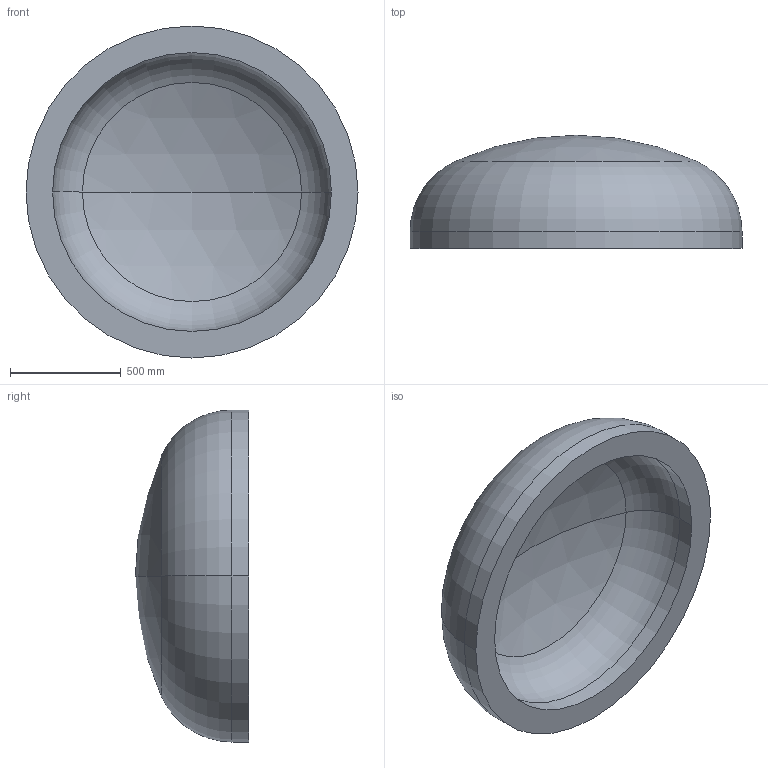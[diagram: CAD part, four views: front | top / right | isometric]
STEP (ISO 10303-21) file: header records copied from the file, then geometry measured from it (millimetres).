
FILE_DESCRIPTION (( 'STEP AP203' ), '1' );
FILE_NAME ('DIN 28013 Korbbogenform_-_Boden DIN 28013 - 1500 x 75 - I - s=120.step', '2016-07-01T11:01:39', ( '' ), ( '' ), 'SwSTEP 2.0', 'SolidWorks 2013', '' );
FILE_SCHEMA (( 'CONFIG_CONTROL_DESIGN' ));
Length unit declared in the file: millimetre
Products named in the file (1): DIN 28013 Korbbogenform_-_Boden DIN 28013 - 1500 x 75 - I - s=120
Bounding box: 1500 x 511.31 x 1500 mm (x, y, z)
Volume: 304415351.9 mm3; surface area: 5623995.2 mm2
Topology: 1 solids, 1 shells, 13 faces, 24 edges, 14 vertices
Faces by surface type: torus 4, cylinder 4, sphere 4, plane 1
Entity records: 407 total; most frequent: DIRECTION 72, CARTESIAN_POINT 52, ORIENTED_EDGE 48, AXIS2_PLACEMENT_3D 34, EDGE_CURVE 24, CIRCLE 20, VERTEX_POINT 14, EDGE_LOOP 14
